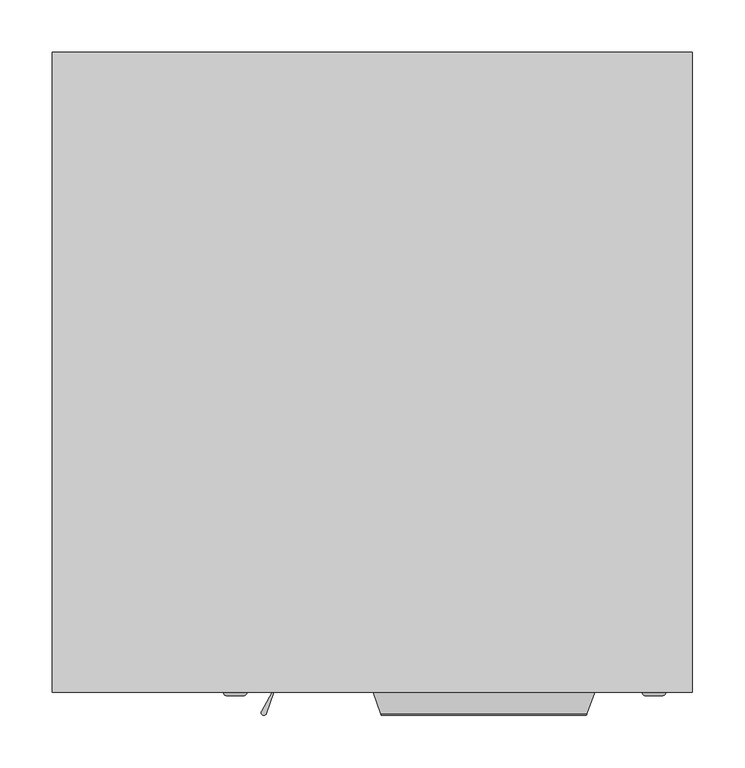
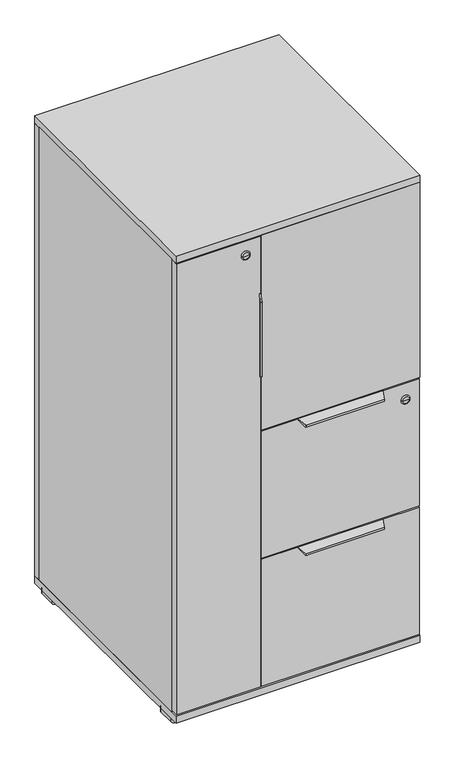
"""IFC4 building model written with IfcOpenShell, lengths in millimetres: furniture geometry, Haworth_BeHold_PersonalStorageTower_SideBookcase_24Wide : F/F - 24d 49h - Proud Back."""

from ifc_helpers import new_model, si_unit, point, frame, frame_2d, origin, origin_with_axes, place, context, project, spatial, polyline, circle_curve, ellipse_curve, trimmed, segment, composite_curve, outline, extrude, source, transform, mapped, element, save
from ifc_brep_helpers import plane_surface, cylinder_surface, revolved_surface, advanced_brep


def furniture_b84a5480(model_context):
    return source(origin(), model_context, "Body", "SolidModel", [
        advanced_brep(
        [(-366.6155381, -673.1, 1072.35625), (-365.2185303, -673.1, 1072.35625), (-365.2185303, -673.1, 861.21875), (-366.6155381, -673.1, 861.21875), (-372.1358002, -693.3137158, 1064.9990591), (-372.1358002, -693.3137158, 868.5759409), (-376.758471, -691.2513306, 1065.7497059), (-376.758471, -691.2513306, 867.8252941)],
        [
            (0, 1),
            (1, 2),
            (2, 3),
            (3, 0),
            (1, 4),
            (4, 5),
            (5, 2),
            (4, 6, ellipse_curve(frame((-374.5401205, -692.4909412, 1065.2985246), z_axis=(0.0, 0.34202014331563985, -0.9396926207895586), x_axis=(0.0, 0.9396926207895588, 0.3420201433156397)), 2.704292, 2.5412032)),
            (6, 7),
            (7, 5, ellipse_curve(frame((-374.5401205, -692.4909412, 868.2764754), z_axis=(0.0, 0.3420201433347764, 0.9396926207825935), x_axis=(0.0, -0.9396926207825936, 0.34202014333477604)), 2.704292, 2.5412032)),
            (3, 7),
            (6, 0),
        ],
        [
            plane_surface(frame((-366.6155381, -673.1, 1072.35625), z_axis=(0.0, 1.0, 0.0), x_axis=(0.0, 0.0, -1.0))),
            plane_surface(frame((-365.2185303, -673.1, 1072.35625), z_axis=(0.946134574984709, -0.3237736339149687, 0.0), x_axis=(0.0, 0.0, -1.0))),
            cylinder_surface(frame((-374.5401205, -692.4909412, 1072.35625), z_axis=(0.0, 0.0, 1.0), x_axis=(0.0, -1.0, 0.0)), 2.5412032),
            plane_surface(frame((-376.758471, -691.2513306, 1072.35625), z_axis=(-0.8729528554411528, 0.4878045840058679, 0.0), x_axis=(0.0, 0.0, -1.0))),
            plane_surface(frame((-352.5185303, -673.1, 1072.35625), z_axis=(0.0, -0.34202014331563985, 0.9396926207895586), x_axis=(-1.0, 0.0, 0.0))),
            plane_surface(frame((-352.5185303, -699.5795, 870.8564998), z_axis=(0.0, -0.3420201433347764, -0.9396926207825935), x_axis=(-1.0, 0.0, 0.0))),
        ],
        [
            (0, [[1, 2, 3, 4]]),
            (1, [[5, 6, 7, -2]]),
            (2, [[8, 9, 10, -6]]),
            (3, [[11, -9, 12, -4]]),
            (4, [[-12, -8, -5, -1]]),
            (5, [[-7, -10, -11, -3]]),
        ],
    ),
        advanced_brep(
        [(-393.9847546, -676.2753876, 1185.672), (-401.9215303, -676.2753876, 1185.672), (-409.8583061, -676.2753876, 1185.672), (-390.8082552, -673.1, 1185.672), (-413.0348055, -673.1, 1185.672), (-401.9215303, -673.1, 1185.672)],
        [
            (0, 1),
            (1, 2),
            (2, 0, circle_curve(frame((-401.9215303, -676.2753876, 1185.672), z_axis=(0.0, -1.0, 0.0), x_axis=(-1.0, 0.0, 0.0)), 7.9367757)),
            (0, 2, circle_curve(frame((-401.9215303, -676.2753876, 1185.672), z_axis=(0.0, -1.0, 0.0), x_axis=(-1.0, 0.0, 0.0)), 7.9367757)),
            (3, 0, circle_curve(frame((-393.9847546, -673.098888, 1185.672), z_axis=(0.0, 0.0, -1.0), x_axis=(0.0, -1.0, 0.0)), 3.1764996)),
            (2, 4, circle_curve(frame((-409.8583061, -673.098888, 1185.672), z_axis=(0.0, 0.0, -1.0), x_axis=(0.0, -1.0, 0.0)), 3.1764996)),
            (4, 3, circle_curve(frame((-401.9215303, -673.1, 1185.672), z_axis=(0.0, -1.0, 0.0), x_axis=(-1.0, 0.0, 0.0)), 11.1132751)),
            (3, 4, circle_curve(frame((-401.9215303, -673.1, 1185.672), z_axis=(0.0, -1.0, 0.0), x_axis=(-1.0, 0.0, 0.0)), 11.1132751)),
            (5, 3),
            (4, 5),
        ],
        [
            plane_surface(frame((-401.9215303, -676.2753876, 1185.672), z_axis=(0.0, -1.0, 0.0), x_axis=(-1.0, 0.0, 0.0))),
            revolved_surface(trimmed(ellipse_curve(frame((-409.8583061, -673.098888, 1185.672), z_axis=(0.0, 0.0, -1.0), x_axis=(0.0, -1.0, 0.0)), 3.1764996, 3.1764996), [point((-409.8583061, -676.2753876, 1185.672))], [point((-413.0348055, -673.1, 1185.672))], True, "CARTESIAN"), (-401.9215303, -635.0, 1185.672), (0.0, 1.0, 0.0)),
            plane_surface(frame((-401.9215303, -673.1, 1185.672), z_axis=(0.0, 1.0, 0.0), x_axis=(-1.0, 0.0, 0.0))),
        ],
        [
            (0, [[1, 2, 3]]),
            (0, [[-2, -1, 4]]),
            (1, [[5, -3, 6, 7]]),
            (1, [[-6, -4, -5, 8]]),
            (2, [[9, -7, 10]]),
            (2, [[-10, -8, -9]]),
        ],
    ),
        extrude(outline(polyline([(-574.3716553, -673.1), (-574.3716553, -654.05), (-365.2185303, -654.05), (-365.2185303, -673.1), (-574.3716553, -673.1)])), frame((0.0, 0.0, 34.925), z_axis=(0.0, 0.0, 1.0), x_axis=(1.0, 0.0, 0.0)), (0.0, 0.0, 1.0), 1187.45),
        advanced_brep(
        [(-270.5638428, -673.1, 706.6279922), (-59.4263428, -673.1, 706.6279922), (-66.0312902, -691.24585, 696.4887354), (-263.9588955, -691.24585, 696.4887354), (-270.5638428, -673.1, 708.025), (-59.4263428, -673.1, 708.025), (-263.2084759, -693.3074865, 701.1098982), (-66.7817097, -693.3074865, 701.1098982)],
        [
            (0, 1),
            (1, 2),
            (2, 3),
            (3, 0),
            (0, 4),
            (4, 5),
            (5, 1),
            (4, 6),
            (6, 7),
            (7, 5),
            (2, 7, ellipse_curve(frame((-66.4823275, -692.4849901, 698.7063783), z_axis=(-0.9396859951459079, 0.34203834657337, 0.0), x_axis=(0.3420383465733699, 0.939685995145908, 0.0)), 2.7034093, 2.5403559)),
            (6, 3, ellipse_curve(frame((-263.5078582, -692.4849901, 698.7063783), z_axis=(0.9396859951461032, 0.3420383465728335, 0.0), x_axis=(0.34203834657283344, -0.9396859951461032, 0.0)), 2.7034093, 2.5403559)),
        ],
        [
            plane_surface(frame((-59.4263428, -691.24585, 696.4887354), z_axis=(0.0, 0.4877820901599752, -0.8729654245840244), x_axis=(-1.0, 0.0, 0.0))),
            plane_surface(frame((-59.4263428, -673.1, 706.6279922), z_axis=(0.0, 1.0, 0.0), x_axis=(-1.0, 0.0, 0.0))),
            plane_surface(frame((-59.4263428, -673.1, 708.025), z_axis=(0.0, -0.32377211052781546, 0.9461350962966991), x_axis=(-1.0, 0.0, 0.0))),
            cylinder_surface(frame((-59.4263428, -692.4849901, 698.7063783), z_axis=(1.0, 0.0, 0.0), x_axis=(0.0, -1.0, 0.0)), 2.5403559),
            plane_surface(frame((-261.9925197, -696.6480975, 720.725), z_axis=(-0.9396859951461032, -0.3420383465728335, 0.0), x_axis=(0.0, 0.0, -1.0))),
            plane_surface(frame((-59.4263428, -673.1, 720.725), z_axis=(0.9396859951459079, -0.34203834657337, 0.0), x_axis=(0.0, 0.0, -1.0))),
        ],
        [
            (0, [[1, 2, 3, 4]]),
            (1, [[-1, 5, 6, 7]]),
            (2, [[-6, 8, 9, 10]]),
            (3, [[-3, 11, -9, 12]]),
            (4, [[-4, -12, -8, -5]]),
            (5, [[-2, -7, -10, -11]]),
        ],
    ),
        advanced_brep(
        [(-10.8107056, -676.2742249, 665.95625), (5.067395, -676.2742249, 665.95625), (-2.8716553, -676.2742249, 665.95625), (-13.9849305, -673.1, 665.95625), (8.2416198, -673.1, 665.95625), (-2.8716553, -673.1, 665.95625)],
        [
            (0, 1, circle_curve(frame((-2.8716553, -676.2742249, 665.95625), z_axis=(0.0, -1.0, 0.0), x_axis=(1.0, 0.0, 0.0)), 7.9390503)),
            (1, 2),
            (2, 0),
            (1, 0, circle_curve(frame((-2.8716553, -676.2742249, 665.95625), z_axis=(0.0, -1.0, 0.0), x_axis=(1.0, 0.0, 0.0)), 7.9390503)),
            (3, 4, circle_curve(frame((-2.8716553, -673.1, 665.95625), z_axis=(0.0, -1.0, 0.0), x_axis=(1.0, 0.0, 0.0)), 11.1132751)),
            (4, 1, circle_curve(frame((5.067395, -673.1, 665.95625), z_axis=(0.0, 0.0, -1.0), x_axis=(-1.0, 0.0, 0.0)), 3.1742249)),
            (0, 3, circle_curve(frame((-10.8107056, -673.1, 665.95625), z_axis=(0.0, 0.0, -1.0), x_axis=(1.0, 0.0, 0.0)), 3.1742249)),
            (4, 3, circle_curve(frame((-2.8716553, -673.1, 665.95625), z_axis=(0.0, -1.0, 0.0), x_axis=(1.0, 0.0, 0.0)), 11.1132751)),
            (5, 4),
            (3, 5),
        ],
        [
            plane_surface(frame((-2.8716553, -676.2742249, 665.95625), z_axis=(0.0, -1.0, 0.0), x_axis=(1.0, 0.0, 0.0))),
            revolved_surface(trimmed(ellipse_curve(frame((5.067395, -673.1, 665.95625), z_axis=(0.0, 0.0, 1.0), x_axis=(-1.0, 0.0, 0.0)), 3.1742249, 3.1742249), [point((5.067395, -676.2742249, 665.95625))], [point((8.2416198, -673.1, 665.95625))], True, "CARTESIAN"), (-2.8716553, -659.1109205, 665.95625), (0.0, 1.0, 0.0)),
            plane_surface(frame((-2.8716553, -673.1, 665.95625), z_axis=(0.0, 1.0, 0.0), x_axis=(1.0, 0.0, 0.0))),
        ],
        [
            (0, [[1, 2, 3]]),
            (0, [[4, -3, -2]]),
            (1, [[5, 6, -1, 7]]),
            (1, [[8, -7, -4, -6]]),
            (2, [[9, -5, 10]]),
            (2, [[-10, -8, -9]]),
        ],
    ),
        extrude(outline(polyline([(-362.0435303, -654.05), (32.0533447, -654.05), (32.0533447, -673.1), (-362.0435303, -673.1), (-362.0435303, -654.05)])), frame((0.0, 0.0, 373.0625), z_axis=(0.0, 0.0, 1.0), x_axis=(1.0, 0.0, 0.0)), (0.0, 0.0, 1.0), 334.9625),
        advanced_brep(
        [(-270.5638428, -673.1, 368.4904922), (-59.4263428, -673.1, 368.4904922), (-66.0312902, -691.24585, 358.3512354), (-263.9588955, -691.24585, 358.3512354), (-270.5638428, -673.1, 369.8875), (-59.4263428, -673.1, 369.8875), (-263.2084759, -693.3074865, 362.9723982), (-66.7817097, -693.3074865, 362.9723982)],
        [
            (0, 1),
            (1, 2),
            (2, 3),
            (3, 0),
            (0, 4),
            (4, 5),
            (5, 1),
            (4, 6),
            (6, 7),
            (7, 5),
            (2, 7, ellipse_curve(frame((-66.4823275, -692.4849901, 360.5688783), z_axis=(-0.9396859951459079, 0.34203834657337, 0.0), x_axis=(0.3420383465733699, 0.939685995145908, 0.0)), 2.7034093, 2.5403559)),
            (6, 3, ellipse_curve(frame((-263.5078582, -692.4849901, 360.5688783), z_axis=(0.9396859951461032, 0.3420383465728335, 0.0), x_axis=(0.34203834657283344, -0.9396859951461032, 0.0)), 2.7034093, 2.5403559)),
        ],
        [
            plane_surface(frame((-59.4263428, -691.24585, 358.3512354), z_axis=(0.0, 0.4877820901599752, -0.8729654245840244), x_axis=(-1.0, 0.0, 0.0))),
            plane_surface(frame((-59.4263428, -673.1, 368.4904922), z_axis=(0.0, 1.0, 0.0), x_axis=(-1.0, 0.0, 0.0))),
            plane_surface(frame((-59.4263428, -673.1, 369.8875), z_axis=(0.0, -0.32377211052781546, 0.9461350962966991), x_axis=(-1.0, 0.0, 0.0))),
            cylinder_surface(frame((-59.4263428, -692.4849901, 360.5688783), z_axis=(1.0, 0.0, 0.0), x_axis=(0.0, -1.0, 0.0)), 2.5403559),
            plane_surface(frame((-261.9925197, -696.6480975, 382.5875), z_axis=(-0.9396859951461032, -0.3420383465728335, 0.0), x_axis=(0.0, 0.0, -1.0))),
            plane_surface(frame((-59.4263428, -673.1, 382.5875), z_axis=(0.9396859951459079, -0.34203834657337, 0.0), x_axis=(0.0, 0.0, -1.0))),
        ],
        [
            (0, [[1, 2, 3, 4]]),
            (1, [[-1, 5, 6, 7]]),
            (2, [[-6, 8, 9, 10]]),
            (3, [[-3, 11, -9, 12]]),
            (4, [[-4, -12, -8, -5]]),
            (5, [[-2, -7, -10, -11]]),
        ],
    ),
        extrude(outline(polyline([(-362.0435303, -654.05), (32.0533447, -654.05), (32.0533447, -673.1), (-362.0435303, -673.1), (-362.0435303, -654.05)])), frame((0.0, 0.0, 34.925), z_axis=(0.0, 0.0, 1.0), x_axis=(1.0, 0.0, 0.0)), (0.0, 0.0, 1.0), 334.9625),
        extrude(outline(polyline([(-575.9591553, -654.05), (-575.9591553, -82.55), (-556.9091553, -82.55), (-556.9091553, -654.05), (-575.9591553, -654.05)])), frame((0.0, 0.0, 31.75), z_axis=(0.0, 0.0, 1.0), x_axis=(1.0, 0.0, 0.0)), (0.0, 0.0, 1.0), 1193.8),
        extrude(outline(polyline([(33.6408447, -654.05), (33.6408447, -673.1), (-363.6310303, -673.1), (-363.6310303, -654.05), (33.6408447, -654.05)])), frame((0.0, 0.0, 711.2), z_axis=(0.0, 0.0, 1.0), x_axis=(1.0, 0.0, 0.0)), (0.0, 0.0, 1.0), 514.35),
        extrude(outline(polyline([(14.5908447, -82.55), (14.5908447, -654.05), (-344.5810303, -654.05), (-344.5810303, -82.55), (14.5908447, -82.55)])), frame((0.0, 0.0, 990.6), z_axis=(0.0, 0.0, 1.0), x_axis=(1.0, 0.0, 0.0)), (0.0, 0.0, 1.0), 19.05),
        extrude(outline(polyline([(33.6408447, -82.55), (33.6408447, -654.05), (-344.5810303, -654.05), (-344.5810303, -82.55), (33.6408447, -82.55)])), frame((0.0, 0.0, 717.55), z_axis=(0.0, 0.0, 1.0), x_axis=(1.0, 0.0, 0.0)), (0.0, 0.0, 1.0), 19.05),
        extrude(outline(polyline([(33.6408447, -63.5), (33.6408447, -673.1), (-575.9591553, -673.1), (-575.9591553, -63.5), (33.6408447, -63.5)])), frame((0.0, 0.0, 1225.55), z_axis=(0.0, 0.0, 1.0), x_axis=(1.0, 0.0, 0.0)), (0.0, 0.0, 1.0), 19.05),
        extrude(outline(polyline([(33.6408447, -82.55), (-575.9591553, -82.55), (-575.9591553, -63.5), (33.6408447, -63.5), (33.6408447, -82.55)])), frame((0.0, 0.0, 31.75), z_axis=(0.0, 0.0, 1.0), x_axis=(1.0, 0.0, 0.0)), (0.0, 0.0, 1.0), 1193.8),
        extrude(outline(polyline([(33.6408447, -82.55), (33.6408447, -654.05), (14.5908447, -654.05), (14.5908447, -82.55), (33.6408447, -82.55)])), frame((0.0, 0.0, 31.75), z_axis=(0.0, 0.0, 1.0), x_axis=(1.0, 0.0, 0.0)), (0.0, 0.0, 1.0), 685.8),
        extrude(outline(polyline([(-363.6310303, -654.05), (-363.6310303, -82.55), (-344.5810303, -82.55), (-344.5810303, -654.05), (-363.6310303, -654.05)])), frame((0.0, 0.0, 31.75), z_axis=(0.0, 0.0, 1.0), x_axis=(1.0, 0.0, 0.0)), (0.0, 0.0, 1.0), 1193.8),
        extrude(outline(polyline([(33.6408447, -63.5), (33.6408447, -673.1), (-575.9591553, -673.1), (-575.9591553, -63.5), (33.6408447, -63.5)])), frame((0.0, 0.0, 12.7), z_axis=(0.0, 0.0, 1.0), x_axis=(1.0, 0.0, 0.0)), (0.0, 0.0, 1.0), 19.05),
        extrude(outline(composite_curve([segment(polyline([(14.5908447, -88.9), (14.5908447, -133.3999969)]), True, "CONTINUOUS"), segment(trimmed(circle_curve(frame_2d((8.2408447, -133.3999969)), 6.35), [point((14.5908447, -133.3999969))], [point((8.2408447, -139.7499969))], False, "CARTESIAN"), True, "CONTINUOUS"), segment(polyline([(8.2408447, -139.7499969), (-3.2092316, -139.7499969), (-42.6091523, -100.3500763), (-42.6091523, -88.9)]), True, "CONTINUOUS"), segment(trimmed(circle_curve(frame_2d((-36.2591523, -88.9)), 6.35), [point((-42.6091523, -88.9))], [point((-36.2591523, -82.55))], False, "CARTESIAN"), True, "CONTINUOUS"), segment(polyline([(-36.2591523, -82.55), (8.2408447, -82.55)]), True, "CONTINUOUS"), segment(trimmed(circle_curve(frame_2d((8.2408447, -88.9)), 6.35), [point((8.2408447, -82.55))], [point((14.5908447, -88.9))], False, "CARTESIAN"), True, "CONTINUOUS")], self_intersect=False)), origin_with_axes(), (0.0, 0.0, 1.0), 12.7),
        extrude(outline(composite_curve([segment(trimmed(circle_curve(frame_2d((8.2408447, -647.7)), 6.35), [point((14.5908447, -647.7))], [point((8.2408447, -654.05))], False, "CARTESIAN"), True, "CONTINUOUS"), segment(polyline([(8.2408447, -654.05), (-36.2591523, -654.05)]), True, "CONTINUOUS"), segment(trimmed(circle_curve(frame_2d((-36.2591523, -647.7)), 6.35), [point((-36.2591523, -654.05))], [point((-42.6091523, -647.7))], False, "CARTESIAN"), True, "CONTINUOUS"), segment(polyline([(-42.6091523, -647.7), (-42.6091523, -636.2499237), (-3.2092316, -596.8500031), (8.2408447, -596.8500031)]), True, "CONTINUOUS"), segment(trimmed(circle_curve(frame_2d((8.2408447, -603.2000031)), 6.35), [point((8.2408447, -596.8500031))], [point((14.5908447, -603.2000031))], False, "CARTESIAN"), True, "CONTINUOUS"), segment(polyline([(14.5908447, -603.2000031), (14.5908447, -647.7)]), True, "CONTINUOUS")], self_intersect=False)), origin_with_axes(), (0.0, 0.0, 1.0), 12.7),
        extrude(outline(composite_curve([segment(trimmed(circle_curve(frame_2d((-566.8310303, -88.9)), 6.35), [point((-573.1810303, -88.9))], [point((-566.8310303, -82.55))], False, "CARTESIAN"), True, "CONTINUOUS"), segment(polyline([(-566.8310303, -82.55), (-522.3310334, -82.55)]), True, "CONTINUOUS"), segment(trimmed(circle_curve(frame_2d((-522.3310334, -88.9)), 6.35), [point((-522.3310334, -82.55))], [point((-515.9810334, -88.9))], False, "CARTESIAN"), True, "CONTINUOUS"), segment(polyline([(-515.9810334, -88.9), (-515.9810334, -100.3500763), (-555.380954, -139.7499969), (-566.8310303, -139.7499969)]), True, "CONTINUOUS"), segment(trimmed(circle_curve(frame_2d((-566.8310303, -133.3999969)), 6.35), [point((-566.8310303, -139.7499969))], [point((-573.1810303, -133.3999969))], False, "CARTESIAN"), True, "CONTINUOUS"), segment(polyline([(-573.1810303, -133.3999969), (-573.1810303, -88.9)]), True, "CONTINUOUS")], self_intersect=False)), origin_with_axes(), (0.0, 0.0, 1.0), 12.7),
        extrude(outline(composite_curve([segment(polyline([(-573.1810303, -647.7), (-573.1810303, -603.2000031)]), True, "CONTINUOUS"), segment(trimmed(circle_curve(frame_2d((-566.8310303, -603.2000031)), 6.35), [point((-573.1810303, -603.2000031))], [point((-566.8310303, -596.8500031))], False, "CARTESIAN"), True, "CONTINUOUS"), segment(polyline([(-566.8310303, -596.8500031), (-555.380954, -596.8500031), (-515.9810334, -636.2499237), (-515.9810334, -647.7)]), True, "CONTINUOUS"), segment(trimmed(circle_curve(frame_2d((-522.3310334, -647.7)), 6.35), [point((-515.9810334, -647.7))], [point((-522.3310334, -654.05))], False, "CARTESIAN"), True, "CONTINUOUS"), segment(polyline([(-522.3310334, -654.05), (-566.8310303, -654.05)]), True, "CONTINUOUS"), segment(trimmed(circle_curve(frame_2d((-566.8310303, -647.7)), 6.35), [point((-566.8310303, -654.05))], [point((-573.1810303, -647.7))], False, "CARTESIAN"), True, "CONTINUOUS")], self_intersect=False)), origin_with_axes(), (0.0, 0.0, 1.0), 12.7),
    ])


if __name__ == "__main__":
    model = new_model("IFC4")
    model_context = context("Model", 3, world=origin())
    ifc_project = project(units=[si_unit("LENGTHUNIT", "METRE", prefix="MILLI")], contexts=[model_context])
    site = spatial("IfcSite", under=ifc_project)
    building = spatial("IfcBuilding", under=site)
    placement = place(None, origin())
    furniture_shape = furniture_b84a5480(model_context)
    element("IfcFurniture", 1, ObjectType="Haworth_BeHold_PersonalStorageTower_SideBookcase_24Wide : F/F - 24d 49h - Proud Back", at=placement, inside=building, context=model_context, shape_type="MappedRepresentation", body=[
        mapped(furniture_shape, transform((0.0, 0.0, 0.0), x_axis=(1.0, 0.0, 0.0), y_axis=(0.0, 1.0, 0.0), z_axis=(0.0, 0.0, 1.0))),
    ])
    save(model, "model.ifc")
